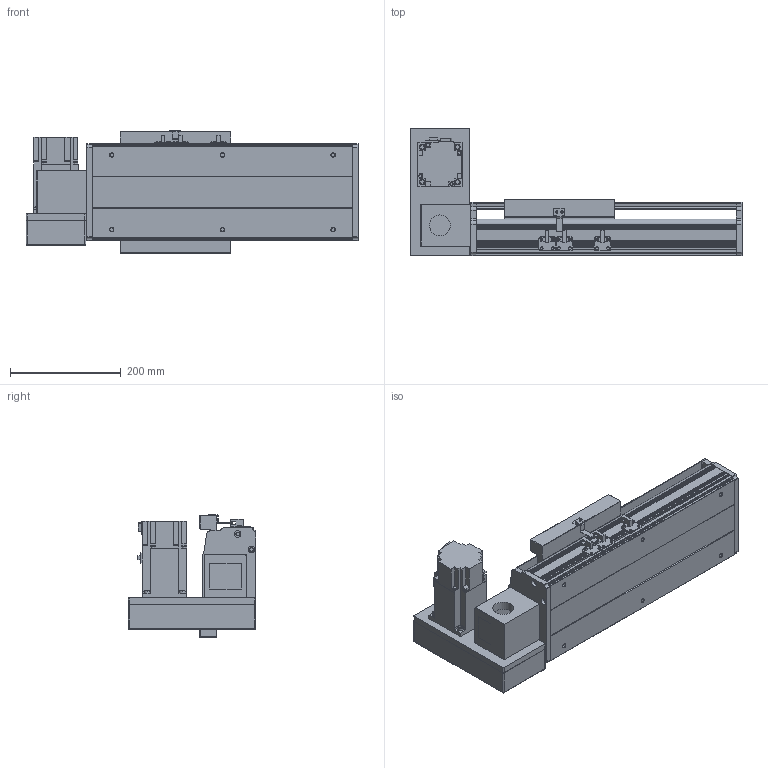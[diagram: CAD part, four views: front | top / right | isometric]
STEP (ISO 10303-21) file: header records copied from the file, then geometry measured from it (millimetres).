
FILE_DESCRIPTION(/* description */ ('STEP AP214'),/* implementation_level */ '2;1');
FILE_NAME(/* name */ 'PBS200-P40-S100-LU-T75-C1-N(0)',/* time_stamp */ '2022-06-11T08:58:19+02:00',/* author */ ('License CC BY-ND 4.0'),/* organization */ ('CADENAS'),/* preprocessor_version */ 'ST-DEVELOPER v18.102',/* originating_system */ 'PARTsolutions',/* authorisation */ ' ');
FILE_SCHEMA (('AUTOMOTIVE_DESIGN {1 0 10303 214 3 1 1}'));
Length unit declared in the file: millimetre
Products named in the file (7): PBS200-P40-S100-LU-T75-C1-N(0); PBS200_sensor; PBS200_plant; PBS200_sliser; T75-p1; PBS200T-LU_motors; PBS200-S100()_body
Assembly tree (8 placements, depth 2):
  PBS200-P40-S100-LU-T75-C1-N(0)
    PBS200_sensor  x3
    PBS200_plant
    PBS200_sliser
    T75-p1
    PBS200T-LU_motors
    PBS200-S100()_body
Bounding box: 600 x 231 x 221 mm (x, y, z)
Volume: 5617678 mm3; surface area: 933250.8 mm2
Topology: 8 solids, 8 shells, 890 faces, 2324 edges, 1518 vertices
Faces by surface type: plane 564, cylinder 288, cone 38
Full cylindrical faces by diameter (mm): 2.459 x6, 3.242 x4, 4.5 x6, 4.917 x4, 5 x6, 6 x7, 6.6 x8, 6.647 x10, 8 x6, 10 x4, 12 x8, 38 x2, 40 x1, 70 x1
Entity records: 23981 total; most frequent: DIRECTION 4207, CARTESIAN_POINT 4102, ORIENTED_EDGE 3922, EDGE_CURVE 1961, AXIS2_PLACEMENT_3D 1447, VERTEX_POINT 1342, LINE 1313, VECTOR 1313
